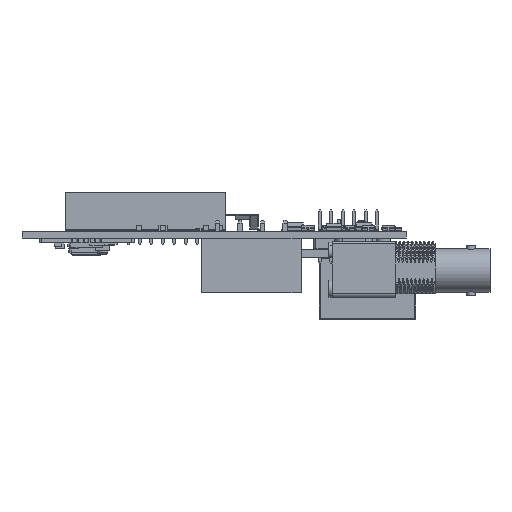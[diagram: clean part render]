
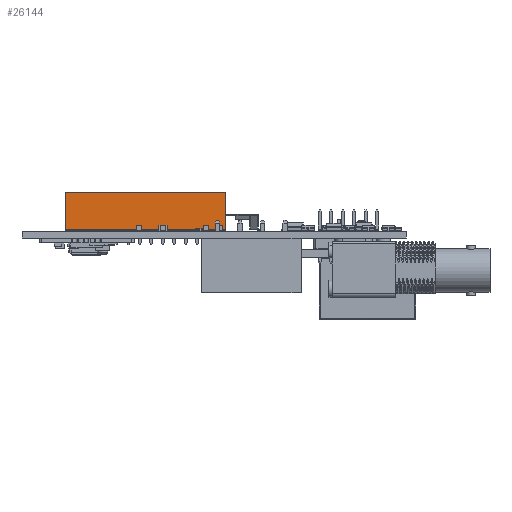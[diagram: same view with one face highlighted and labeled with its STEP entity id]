
A CAD part, left-side view. The second image highlights one B-rep face of the part: STEP entity #26144.
In plain terms, the highlighted planar face has unit normal (-1, 0, 0) as drawn and (1, 0, 0) by its records, which use the part's own axes.
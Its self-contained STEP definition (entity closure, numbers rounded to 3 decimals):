
#26144 = ADVANCED_FACE('',(#26145),#26179,.F.);
#26145 = FACE_BOUND('',#26146,.F.);
#26146 = EDGE_LOOP('',(#26147,#26157,#26165,#26173));
#26147 = ORIENTED_EDGE('',*,*,#26148,.T.);
#26148 = EDGE_CURVE('',#26149,#26151,#26153,.T.);
#26149 = VERTEX_POINT('',#26150);
#26150 = CARTESIAN_POINT('',(1.27,-34.29,0.));
#26151 = VERTEX_POINT('',#26152);
#26152 = CARTESIAN_POINT('',(1.27,-34.29,8.5));
#26153 = LINE('',#26154,#26155);
#26154 = CARTESIAN_POINT('',(1.27,-34.29,0.));
#26155 = VECTOR('',#26156,1.);
#26156 = DIRECTION('',(0.,0.,1.));
#26157 = ORIENTED_EDGE('',*,*,#26158,.T.);
#26158 = EDGE_CURVE('',#26151,#26159,#26161,.T.);
#26159 = VERTEX_POINT('',#26160);
#26160 = CARTESIAN_POINT('',(1.27,1.27,8.5));
#26161 = LINE('',#26162,#26163);
#26162 = CARTESIAN_POINT('',(1.27,-34.29,8.5));
#26163 = VECTOR('',#26164,1.);
#26164 = DIRECTION('',(0.,1.,0.));
#26165 = ORIENTED_EDGE('',*,*,#26166,.F.);
#26166 = EDGE_CURVE('',#26167,#26159,#26169,.T.);
#26167 = VERTEX_POINT('',#26168);
#26168 = CARTESIAN_POINT('',(1.27,1.27,0.));
#26169 = LINE('',#26170,#26171);
#26170 = CARTESIAN_POINT('',(1.27,1.27,0.));
#26171 = VECTOR('',#26172,1.);
#26172 = DIRECTION('',(0.,0.,1.));
#26173 = ORIENTED_EDGE('',*,*,#26174,.F.);
#26174 = EDGE_CURVE('',#26149,#26167,#26175,.T.);
#26175 = LINE('',#26176,#26177);
#26176 = CARTESIAN_POINT('',(1.27,-34.29,0.));
#26177 = VECTOR('',#26178,1.);
#26178 = DIRECTION('',(0.,1.,0.));
#26179 = PLANE('',#26180);
#26180 = AXIS2_PLACEMENT_3D('',#26181,#26182,#26183);
#26181 = CARTESIAN_POINT('',(1.27,-34.29,0.));
#26182 = DIRECTION('',(-1.,0.,0.));
#26183 = DIRECTION('',(0.,1.,0.));
